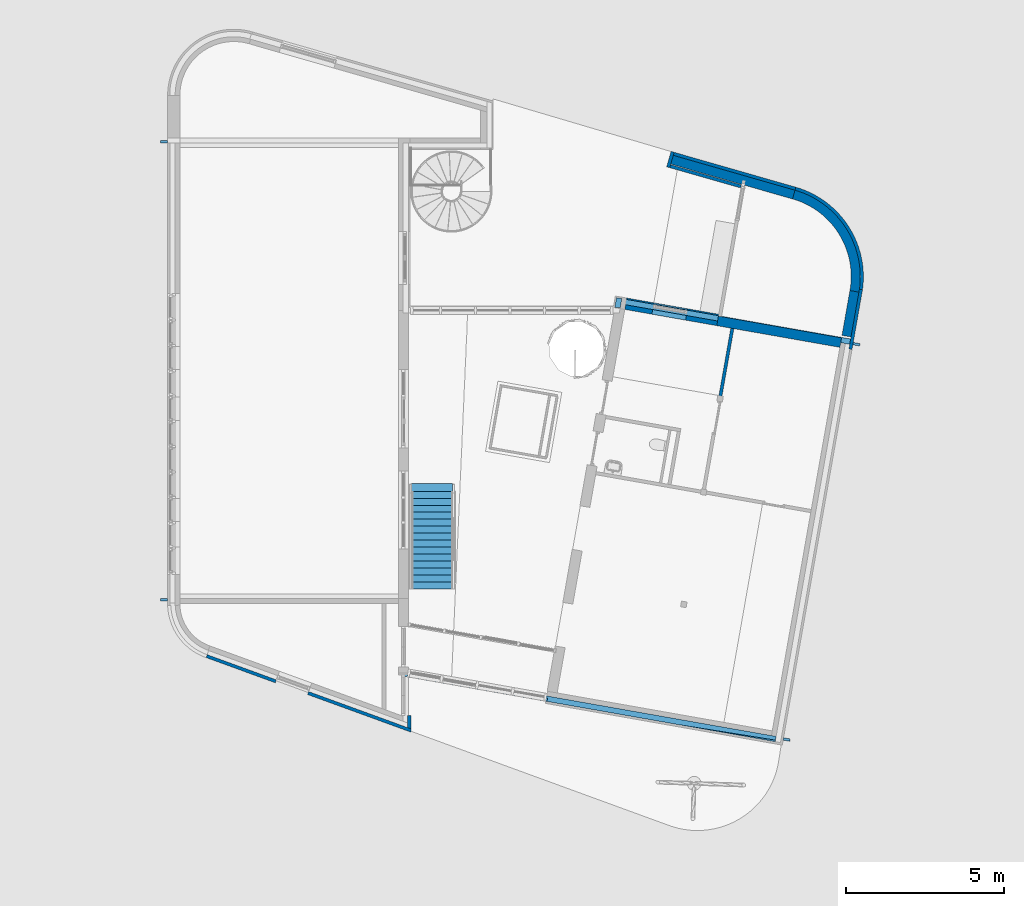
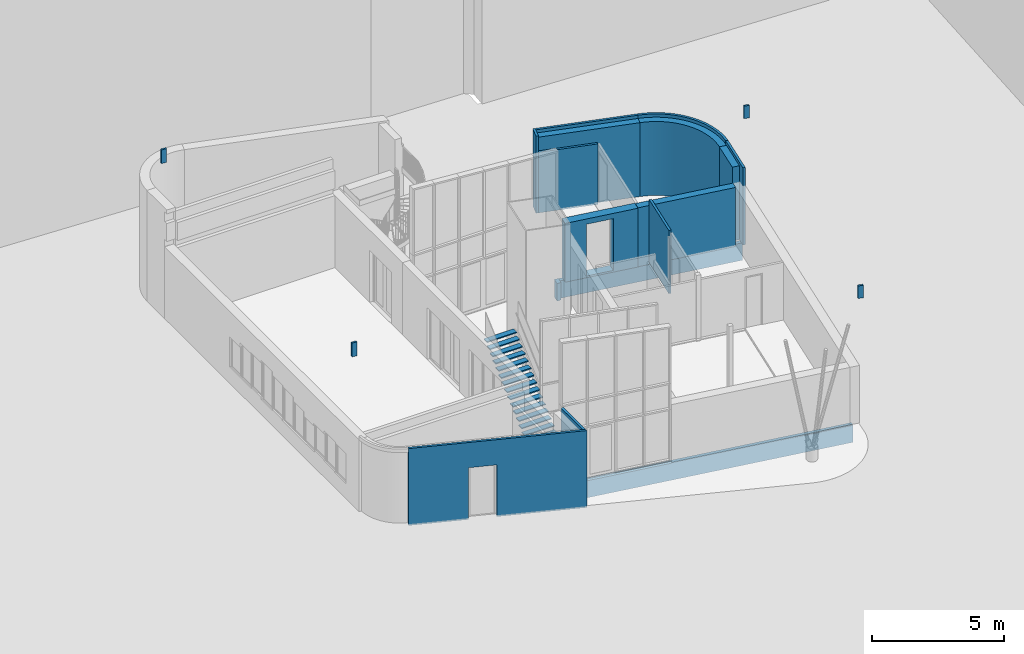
# One storey, part 13 of 21: 20 walls, 1 stair flight, 1 opening, 1 element without a shape of its own.
"""IFC2X3 building model written with IfcOpenShell, lengths in millimetres."""

from ifc_helpers import new_model, entity, si_unit, converted_unit, derived_unit, direction, frame, frame_2d, origin, place, context, subcontext, project, spatial, polyline, circle_curve, parameter, trimmed, segment, composite_curve, rectangle, outline, extrude, clip, halfspace, bounded_halfspace, faceted_brep, material, material_list, layer, layer_set, layer_usage, type_object, element, aggregate, save


model = new_model("IFC2X3")

# Units and contexts
model_context = context("Model", 3, precision=0.01, world=origin(), true_north=direction((6.12303176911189e-17, 1.0)))
body_context = subcontext(model_context, "Body", "Model", "MODEL_VIEW")
ifc_project = project(units=[si_unit("LENGTHUNIT", "METRE", prefix="MILLI"), si_unit("AREAUNIT", "SQUARE_METRE"), si_unit("VOLUMEUNIT", "CUBIC_METRE"), converted_unit("PLANEANGLEUNIT", "DEGREE", entity("IfcRatioMeasure", 0.0174532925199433), si_unit("PLANEANGLEUNIT", "RADIAN"), dimensions=[0, 0, 0, 0, 0, 0, 0]), si_unit("MASSUNIT", "GRAM", prefix="KILO"), derived_unit("MASSDENSITYUNIT", [(si_unit("MASSUNIT", "GRAM", prefix="KILO"), 1), (si_unit("LENGTHUNIT", "METRE"), -3)]), derived_unit("MOMENTOFINERTIAUNIT", [(si_unit("LENGTHUNIT", "METRE"), 4)]), si_unit("TIMEUNIT", "SECOND"), si_unit("FREQUENCYUNIT", "HERTZ"), si_unit("THERMODYNAMICTEMPERATUREUNIT", "DEGREE_CELSIUS"), derived_unit("THERMALTRANSMITTANCEUNIT", [(si_unit("MASSUNIT", "GRAM", prefix="KILO"), 1), (si_unit("THERMODYNAMICTEMPERATUREUNIT", "KELVIN"), -1), (si_unit("TIMEUNIT", "SECOND"), -3)]), derived_unit("VOLUMETRICFLOWRATEUNIT", [(si_unit("LENGTHUNIT", "METRE"), 3), (si_unit("TIMEUNIT", "SECOND"), -1)]), si_unit("ELECTRICCURRENTUNIT", "AMPERE"), si_unit("ELECTRICVOLTAGEUNIT", "VOLT"), si_unit("POWERUNIT", "WATT"), si_unit("FORCEUNIT", "NEWTON", prefix="KILO"), si_unit("ILLUMINANCEUNIT", "LUX"), si_unit("LUMINOUSFLUXUNIT", "LUMEN"), si_unit("LUMINOUSINTENSITYUNIT", "CANDELA"), derived_unit("USERDEFINED", [(si_unit("MASSUNIT", "GRAM", prefix="KILO"), -1), (si_unit("LENGTHUNIT", "METRE"), -2), (si_unit("TIMEUNIT", "SECOND"), 3), (si_unit("LUMINOUSFLUXUNIT", "LUMEN"), 1)]), derived_unit("LINEARVELOCITYUNIT", [(si_unit("LENGTHUNIT", "METRE"), 1), (si_unit("TIMEUNIT", "SECOND"), -1)]), si_unit("PRESSUREUNIT", "PASCAL"), derived_unit("USERDEFINED", [(si_unit("LENGTHUNIT", "METRE"), -2), (si_unit("MASSUNIT", "GRAM", prefix="KILO"), 1), (si_unit("TIMEUNIT", "SECOND"), -2)]), derived_unit("LINEARFORCEUNIT", [(si_unit("MASSUNIT", "GRAM", prefix="KILO"), 1), (si_unit("LENGTHUNIT", "METRE"), 1), (si_unit("TIMEUNIT", "SECOND"), -2), (si_unit("LENGTHUNIT", "METRE"), -1)]), derived_unit("PLANARFORCEUNIT", [(si_unit("MASSUNIT", "GRAM", prefix="KILO"), 1), (si_unit("LENGTHUNIT", "METRE"), 1), (si_unit("TIMEUNIT", "SECOND"), -2), (si_unit("LENGTHUNIT", "METRE"), -2)])], contexts=[model_context])

# Site, building, storey
site_placement = place(None, origin())
site = spatial("IfcSite", under=ifc_project, at=site_placement, Name="<Kadaster Gemeente>;<Kadaster nummer>;<Kadaster sectie>", CompositionType="ELEMENT")
building_placement = place(site_placement, origin())
building = spatial("IfcBuilding", under=site, at=building_placement, Name="JRCZ Middelburg", CompositionType="ELEMENT")
storey_placement = place(building_placement, origin())
storey = spatial("IfcBuildingStorey", under=building, at=storey_placement, Name="00 begane grond", CompositionType="ELEMENT", Elevation=0.0)

# Walls
ifc_material_1 = material(Name="RBM_n7_isolatie_hsb_100")
ifc_layer_1 = layer(ifc_material_1, 100.0)
ifc_layer_set_1 = layer_set([ifc_layer_1], Name="Basic Wall:22_WA_metalstud_binnenwand_100mm")
ifc_layer_usage_1 = layer_usage(ifc_layer_set_1, "AXIS2", "NEGATIVE", 50.0)
wall_type_1 = type_object("IfcWallType", Name="Basic Wall:22_WA_metalstud_binnenwand_100mm", PredefinedType="STANDARD", material=ifc_layer_set_1)
wall_1_placement = place(storey_placement, frame((27624.7105197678, 18683.7274090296, 0.0), z_axis=(0.0, 0.0, 1.0), x_axis=(-0.173648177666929, -0.984807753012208, 0.0)))
element("IfcWallStandardCase", 1, at=wall_1_placement, inside=storey, type_object=wall_type_1, material=ifc_layer_usage_1, Name="Basic Wall:22_WA_metalstud_binnenwand_100mm", ObjectType="Basic Wall:22_WA_metalstud_binnenwand_100mm", context=body_context, shape_type="Clipping", body=[
    clip(extrude(rectangle(XDim=2175.00000000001, YDim=99.9999999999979, at=frame_2d((1237.50000000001, -8.98836560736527e-13), x_axis=(-1.0, 0.0))), origin(), (0.0, 0.0, 1.0), 2936.0), bounded_halfspace(frame((0.0, -50.0, 2936.0), z_axis=(0.0, 0.0, -1.0), x_axis=(1.0, 0.0, 0.0)), True, frame((0.0, -50.0, 2936.0)), polyline([(0.0, 0.0), (2325.0, 0.0), (2325.0, 100.0), (0.0, 100.0), (0.0, 0.0)]))),
])
ifc_material_2 = material(Name="RBM_i4_multiplex_beplating")
ifc_layer_2 = layer(ifc_material_2, 18.0)
ifc_material_3 = material(Name="RBM_n7_isolatie_hsb_270")
ifc_layer_3 = layer(ifc_material_3, 270.0)
ifc_layer_4 = layer(ifc_material_2, 18.0)
ifc_layer_set_2 = layer_set([ifc_layer_2, ifc_layer_3, ifc_layer_4], Name="Basic Wall:22_WA_hsb_binnenwand_306mm")
ifc_layer_usage_2 = layer_usage(ifc_layer_set_2, "AXIS2", "NEGATIVE", 153.0)
wall_type_2 = type_object("IfcWallType", Name="Basic Wall:22_WA_hsb_binnenwand_306mm", PredefinedType="STANDARD", material=ifc_layer_set_2)
wall_2_placement = place(storey_placement, frame((27132.8275877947, 18773.5059211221, -70.0), z_axis=(0.0, 0.0, 1.0), x_axis=(0.984807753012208, -0.173648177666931, 0.0)))
element("IfcWallStandardCase", 2, at=wall_2_placement, inside=storey, type_object=wall_type_2, material=ifc_layer_usage_2, Name="Basic Wall:22_WA_hsb_binnenwand_306mm", ObjectType="Basic Wall:22_WA_hsb_binnenwand_306mm", context=body_context, shape_type="SweptSolid", body=[
    extrude(rectangle(XDim=3950.00000000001, YDim=306.0, at=frame_2d((1975.0, -1.02318153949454e-12), x_axis=(-1.0, 0.0))), origin(), (0.0, 0.0, 1.0), 2735.0),
])
ifc_material_4 = material(Name="geisoleerde cementvezelplaat")
ifc_layer_5 = layer(ifc_material_4, 20.0)
ifc_material_5 = material(Name="RBM_n7_isolatie_resol")
ifc_layer_6 = layer(ifc_material_5, 150.0)
ifc_layer_set_3 = layer_set([ifc_layer_5, ifc_layer_6], Name="Basic Wall:21_RBM_WA_170mm_geïsoleerde_kantplank")
wall_type_3 = type_object("IfcWallType", Name="Basic Wall:21_RBM_WA_170mm_geïsoleerde_kantplank", PredefinedType="STANDARD", material=ifc_layer_set_3)
wall_3_placement = place(storey_placement, frame((28967.2912969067, 5566.30762246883, -890.0), z_axis=(0.0, 0.0, 1.0), x_axis=(-0.984807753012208, 0.173648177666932, 0.0)))
element("IfcWall", 3, at=wall_3_placement, inside=storey, type_object=wall_type_3, Name="Basic Wall:21_RBM_WA_170mm_geïsoleerde_kantplank", ObjectType="Basic Wall:21_RBM_WA_170mm_geïsoleerde_kantplank", context=body_context, shape_type="Brep", body=[
    faceted_brep([(0.0, -85.0, 0.0), (11963.8085260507, -85.0, 0.0), (11963.8085260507, -85.0, 810.0), (0.0, -85.0, 810.0), (11933.8329393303, 85.0, 0.0), (0.0, 85.0, 0.0), (0.0, 85.0, 790.0), (3115.0, 85.0, 790.0), (3115.0, 85.0, 810.0), (7318.00691164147, 85.0, 810.0), (7318.00691164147, 85.0, 790.0), (11787.6115072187, 85.0, 790.0), (11787.6115072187, 85.0, 810.0), (11933.8329393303, 85.0, 810.0), (11933.8329393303, 85.0, 370.0), (11808.1639129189, -31.5584847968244, 810.0), (7317.91397739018, -27.8610349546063, 810.0), (0.0, 35.6087645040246, 810.0), (0.0, 35.6087645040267, 790.0), (11808.1639129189, -31.5584847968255, 790.0), (7317.91397739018, -27.8610349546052, 790.0)], [[[0, 1, 2, 3]], [[4, 5, 6, 7, 8, 9, 10, 11, 12, 13, 14]], [[1, 0, 5, 4]], [[3, 2, 13, 12, 15, 16, 9, 8, 17]], [[0, 3, 17, 18, 6, 5]], [[18, 7, 6]], [[11, 19, 15, 12]], [[19, 20, 16, 15]], [[20, 10, 9, 16]], [[7, 18, 17, 8]], [[2, 1, 4, 14, 13]], [[20, 19, 11, 10]]]),
])
ifc_layer_usage_3 = layer_usage(ifc_layer_set_3, "AXIS2", "NEGATIVE", 85.0)
wall_4_placement = place(storey_placement, frame((23970.8745783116, 19182.8632927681, -890.0), z_axis=(0.0, 0.0, 1.0), x_axis=(0.17364817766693, 0.984807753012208, 0.0)))
element("IfcWallStandardCase", 4, at=wall_4_placement, inside=storey, type_object=wall_type_3, material=ifc_layer_usage_3, Name="Basic Wall:21_RBM_WA_170mm_geïsoleerde_kantplank", ObjectType="Basic Wall:21_RBM_WA_170mm_geïsoleerde_kantplank", context=body_context, shape_type="SweptSolid", body=[
    extrude(outline(polyline([(312.929064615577, -85.0), (312.929064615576, 85.0), (0.0, 85.0), (29.9755867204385, -85.0), (142.929064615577, -85.0), (312.929064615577, -85.0)])), origin(), (0.0, 0.0, 1.0), 810.000000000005),
])
ifc_layer_usage_4 = layer_usage(ifc_layer_set_3, "AXIS2", "NEGATIVE", 85.0)
wall_5_placement = place(storey_placement, frame((24094.1627040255, 19392.5695076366, -890.0), z_axis=(0.0, 0.0, 1.0), x_axis=(0.984807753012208, -0.173648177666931, 0.0)))
element("IfcWallStandardCase", 5, at=wall_5_placement, inside=storey, type_object=wall_type_3, material=ifc_layer_usage_4, Name="Basic Wall:21_RBM_WA_170mm_geïsoleerde_kantplank", ObjectType="Basic Wall:21_RBM_WA_170mm_geïsoleerde_kantplank", context=body_context, shape_type="SweptSolid", body=[
    extrude(rectangle(XDim=7370.0, YDim=170.000000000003, at=frame_2d((3685.0, -6.60804744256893e-13), x_axis=(-1.0, 0.0))), origin(), (0.0, 0.0, 1.0), 810.000000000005),
])

# Wall, opening
ifc_material_6 = material(Name="gevel antraciet")
ifc_layer_7 = layer(ifc_material_6, 8.0)
ifc_material_7 = material(Name="ISR_Luchtspouw")
ifc_layer_8 = layer(ifc_material_7, 35.0)
ifc_layer_9 = layer(ifc_material_7, 35.0)
ifc_layer_10 = layer(ifc_material_3, 270.0)
ifc_layer_11 = layer(ifc_material_2, 18.0)
ifc_layer_set_4 = layer_set([ifc_layer_7, ifc_layer_8, ifc_layer_9, ifc_layer_10, ifc_layer_11], Name="Basic Wall:21_RBM_WA_hsb_270mm_ rockpanel")
ifc_layer_usage_5 = layer_usage(ifc_layer_set_4, "AXIS2", "NEGATIVE", 183.0)
wall_type_4 = type_object("IfcWallType", Name="Basic Wall:21_RBM_WA_hsb_270mm_ rockpanel", PredefinedType="STANDARD", material=ifc_layer_set_4)
wall_6_placement = place(storey_placement, frame((24232.8541617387, 19315.31227783, -80.0), z_axis=(0.0, 0.0, 1.0), x_axis=(0.984807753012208, -0.173648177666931, 0.0)))
wall_6 = element("IfcWallStandardCase", 6, at=wall_6_placement, inside=storey, type_object=wall_type_4, material=ifc_layer_usage_5, Name="Basic Wall:21_RBM_WA_hsb_270mm_ rockpanel", ObjectType="Basic Wall:21_RBM_WA_hsb_270mm_ rockpanel", context=body_context, shape_type="SweptSolid", body=[
    extrude(rectangle(XDim=3049.42058882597, YDim=366.000000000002, at=frame_2d((1524.71029441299, 1.70530256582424e-13), x_axis=(-1.0, 0.0))), origin(), (0.0, 0.0, 1.0), 2725.0),
])
opening_placement = place(wall_6_placement, origin())
element("IfcOpeningElement", 7, at=opening_placement, cuts=wall_6, Name="Basic Wall:21_RBM_WA_hsb_270mm_ rockpanel", ObjectType="Opening", context=body_context, shape_type="SweptSolid", body=[
    extrude(rectangle(XDim=2400.0, YDim=1084.0, at=frame_2d((2.1600499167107e-12, 0.0), x_axis=(0.0, 1.0))), frame((1410.31493614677, -335.399999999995, 1280.0), z_axis=(0.0, 1.0, 0.0), x_axis=(-1.0, 0.0, 0.0)), (0.0, 0.0, 1.0), 670.799999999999),
])

# Walls
ifc_layer_12 = layer(ifc_material_7, 270.0)
ifc_layer_13 = layer(ifc_material_2, 18.0)
ifc_layer_set_5 = layer_set([ifc_layer_12, ifc_layer_13], Name="Basic Wall:21_RBM_WA_hsb_270mm - niet geïsoleerd")
ifc_layer_usage_6 = layer_usage(ifc_layer_set_5, "AXIS2", "POSITIVE", -144.0)
wall_type_5 = type_object("IfcWallType", Name="Basic Wall:21_RBM_WA_hsb_270mm - niet geïsoleerd", PredefinedType="STANDARD", material=ifc_layer_set_5)
wall_7_placement = place(storey_placement, frame((29538.0953940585, 22762.1711773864, -80.0), z_axis=(0.0, 0.0, 1.0), x_axis=(-0.961261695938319, 0.275637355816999, 0.0)))
element("IfcWallStandardCase", 8, at=wall_7_placement, inside=storey, type_object=wall_type_5, material=ifc_layer_usage_6, Name="Basic Wall:21_RBM_WA_hsb_270mm - niet geïsoleerd", ObjectType="Basic Wall:21_RBM_WA_hsb_270mm - niet geïsoleerd", context=body_context, shape_type="SweptSolid", body=[
    extrude(outline(polyline([(3998.45557788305, -144.0), (3998.45557788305, 144.0), (0.0, 144.0), (0.485277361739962, -144.0), (3998.45557788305, -144.0)])), origin(), (0.0, 0.0, 1.0), 3429.99999999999),
])
ifc_layer_usage_7 = layer_usage(ifc_layer_set_5, "AXIS2", "POSITIVE", -144.0)
wall_8_placement = place(storey_placement, frame((31204.4331900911, 18291.0436780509, -80.0), z_axis=(0.0, 0.0, 1.0), x_axis=(0.173659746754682, 0.984805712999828, 0.0)))
element("IfcWallStandardCase", 9, at=wall_8_placement, inside=storey, type_object=wall_type_5, material=ifc_layer_usage_7, Name="Basic Wall:21_RBM_WA_hsb_270mm - niet geïsoleerd", ObjectType="Basic Wall:21_RBM_WA_hsb_270mm - niet geïsoleerd", context=body_context, shape_type="SweptSolid", body=[
    extrude(rectangle(XDim=1437.80359953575, YDim=287.999999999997, at=frame_2d((718.901799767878, -2.58637555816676e-12), x_axis=(-1.0, 0.0))), origin(), (0.0, 0.0, 1.0), 3429.99999999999),
])
ifc_layer_usage_8 = layer_usage(ifc_layer_set_5, "AXIS2", "POSITIVE", -144.0)
wall_9_placement = place(storey_placement, frame((29537.6158396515, 22762.3077892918, -80.0)))
element("IfcWallStandardCase", 10, at=wall_9_placement, inside=storey, type_object=wall_type_5, material=ifc_layer_usage_8, Name="Basic Wall:21_RBM_WA_hsb_270mm - niet geïsoleerd", ObjectType="Basic Wall:21_RBM_WA_hsb_270mm - niet geïsoleerd", context=body_context, shape_type="SweptSolid", body=[
    extrude(outline(composite_curve([segment(trimmed(circle_curve(frame_2d((-732.462092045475, -2588.19028720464), x_axis=(1.0, 0.0)), 2833.8382254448), [parameter(349.999326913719)], [parameter(74.1880483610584)], True, "PARAMETER"), True, "CONTINUOUS"), segment(polyline([(39.7048551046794, 138.418832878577), (-39.2122248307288, -138.558296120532)]), True, "CONTINUOUS"), segment(trimmed(circle_curve(frame_2d((-732.462092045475, -2588.19028720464), x_axis=(1.0, 0.0)), 2545.8382254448), [parameter(349.99932691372)], [parameter(74.1984000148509)], True, "PARAMETER"), False, "CONTINUOUS"), segment(polyline([(1774.69393674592, -3030.29990871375), (2058.31798208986, -3080.31391577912)]), True, "CONTINUOUS")], self_intersect=False)), origin(), (0.0, 0.0, 1.0), 3429.99999999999),
])
ifc_material_8 = material(Name="Gevelafwerking")
ifc_layer_14 = layer(ifc_material_8, 30.0)
ifc_layer_15 = layer(ifc_material_7, 35.0)
ifc_layer_16 = layer(ifc_material_7, 35.0)
ifc_layer_set_6 = layer_set([ifc_layer_14, ifc_layer_15, ifc_layer_16], Name="Basic Wall:20_RBM_WA_HSB_wand-100mm_gevelafwerking")
ifc_layer_usage_9 = layer_usage(ifc_layer_set_6, "AXIS2", "NEGATIVE", 50.0)
wall_type_6 = type_object("IfcWallType", Name="Basic Wall:20_RBM_WA_HSB_wand-100mm_gevelafwerking", PredefinedType="STANDARD", material=ifc_layer_set_6)
wall_10_placement = place(storey_placement, frame((31661.8142293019, 19765.0576906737, -80.0), z_axis=(0.0, 0.0, 1.0), x_axis=(-0.17364817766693, -0.984807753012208, 0.0)))
element("IfcWallStandardCase", 11, at=wall_10_placement, inside=storey, type_object=wall_type_6, material=ifc_layer_usage_9, Name="Basic Wall:20_RBM_WA_HSB_wand-100mm_gevelafwerking", ObjectType="Basic Wall:20_RBM_WA_HSB_wand-100mm_gevelafwerking", context=body_context, shape_type="SweptSolid", body=[
    extrude(outline(polyline([(1915.938147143, -50.0), (1915.938147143, 50.0), (0.0, 50.0), (1.80715518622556, -50.0), (1915.938147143, -50.0)])), origin(), (0.0, 0.0, 1.0), 3580.0),
])
ifc_layer_usage_10 = layer_usage(ifc_layer_set_6, "AXIS2", "NEGATIVE", 50.0)
wall_11_placement = place(storey_placement, frame((25574.2421601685, 23626.187939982, -80.0), z_axis=(0.0, 0.0, 1.0), x_axis=(0.275637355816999, 0.961261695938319, 0.0)))
element("IfcWallStandardCase", 12, at=wall_11_placement, inside=storey, type_object=wall_type_6, material=ifc_layer_usage_10, Name="Basic Wall:20_RBM_WA_HSB_wand-100mm_gevelafwerking", ObjectType="Basic Wall:20_RBM_WA_HSB_wand-100mm_gevelafwerking", context=body_context, shape_type="SweptSolid", body=[
    extrude(outline(polyline([(506.039805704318, -50.0), (506.039805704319, 50.0), (0.0, 50.0), (0.0397977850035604, -50.0), (100.03980570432, -50.0), (406.039805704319, -50.0), (506.039805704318, -50.0)])), origin(), (0.0, 0.0, 1.0), 3580.0),
])
ifc_layer_usage_11 = layer_usage(ifc_layer_set_6, "AXIS2", "POSITIVE", -50.0)
wall_12_placement = place(storey_placement, frame((29591.0858035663, 22948.7944272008, -80.0)))
element("IfcWallStandardCase", 13, at=wall_12_placement, inside=storey, type_object=wall_type_6, material=ifc_layer_usage_11, Name="Basic Wall:20_RBM_WA_HSB_wand-100mm_gevelafwerking", ObjectType="Basic Wall:20_RBM_WA_HSB_wand-100mm_gevelafwerking", context=body_context, shape_type="SweptSolid", body=[
    extrude(outline(composite_curve([segment(trimmed(circle_curve(frame_2d((-799.011158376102, -2784.9314124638), x_axis=(1.0, 0.0)), 2947.28524714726), [parameter(352.052904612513)], [parameter(73.9915421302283)], True, "PARAMETER"), True, "CONTINUOUS"), segment(polyline([(13.78896260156, 48.0610498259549), (-13.788962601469, -48.0610498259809)]), True, "CONTINUOUS"), segment(trimmed(circle_curve(frame_2d((-799.011158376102, -2784.9314124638), x_axis=(1.0, 0.0)), 2847.28524714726), [parameter(352.088647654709)], [parameter(73.9915421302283)], True, "PARAMETER"), False, "CONTINUOUS"), segment(polyline([(2021.17422888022, -3176.83402808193), (2119.96881338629, -3192.41914541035)]), True, "CONTINUOUS")], self_intersect=False)), origin(), (0.0, 0.0, 1.0), 3580.0),
])
ifc_layer_usage_12 = layer_usage(ifc_layer_set_6, "AXIS2", "NEGATIVE", 50.0)
wall_13_placement = place(storey_placement, frame((25748.0068511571, 24050.7796692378, -80.0), z_axis=(0.0, 0.0, 1.0), x_axis=(0.961261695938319, -0.275637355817, 0.0)))
element("IfcWallStandardCase", 14, at=wall_13_placement, inside=storey, type_object=wall_type_6, material=ifc_layer_usage_12, Name="Basic Wall:20_RBM_WA_HSB_wand-100mm_gevelafwerking", ObjectType="Basic Wall:20_RBM_WA_HSB_wand-100mm_gevelafwerking", context=body_context, shape_type="SweptSolid", body=[
    extrude(rectangle(XDim=3997.95288968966, YDim=100.000000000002, at=frame_2d((1998.97644484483, 1.50635059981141e-12), x_axis=(-1.0, 0.0))), origin(), (0.0, 0.0, 1.0), 3580.0),
])
ifc_layer_usage_13 = layer_usage(ifc_layer_set_6, "AXIS2", "NEGATIVE", 50.0)
wall_14_placement = place(storey_placement, frame((27868.8347767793, 23021.2420041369, -80.0), z_axis=(0.0, 0.0, 1.0), x_axis=(-0.961371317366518, 0.275254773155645, 0.0)))
element("IfcWallStandardCase", 15, at=wall_14_placement, inside=storey, type_object=wall_type_6, material=ifc_layer_usage_13, Name="Basic Wall:20_RBM_WA_HSB_wand-100mm_gevelafwerking", ObjectType="Basic Wall:20_RBM_WA_HSB_wand-100mm_gevelafwerking", context=body_context, shape_type="SweptSolid", body=[
    extrude(outline(polyline([(2322.42997332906, -50.0), (2322.46977111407, 50.0), (0.0, 50.0), (0.0, -50.0), (2322.42997332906, -50.0)])), origin(), (0.0, 0.0, 1.0), 2809.0),
])
wall_15_placement = place(storey_placement, frame((17461.1010071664, 5831.2652998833, -70.0), z_axis=(0.0, 0.0, 1.0), x_axis=(-0.939692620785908, 0.342020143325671, 0.0)))
element("IfcWall", 16, at=wall_15_placement, inside=storey, type_object=wall_type_6, Name="Basic Wall:20_RBM_WA_HSB_wand-100mm_gevelafwerking", ObjectType="Basic Wall:20_RBM_WA_HSB_wand-100mm_gevelafwerking", context=body_context, shape_type="Brep", body=[
    faceted_brep([(36.3970234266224, -50.0, 0.0), (142.814800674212, -50.0, 0.0), (3471.99318715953, -50.0, 0.0), (3471.99318715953, -50.0, 2400.0), (4555.99318715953, -50.0, 2400.0), (4555.99318715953, -50.0, 0.0), (6879.73013932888, -50.0, 0.0), (6879.73013932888, -50.0, 3570.0), (142.814800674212, -50.0, 3570.0), (36.3970234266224, -50.0, 3570.0), (0.0, 50.0, 0.0), (0.0, 50.0, 3570.0), (6878.93353620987, 50.0, 3570.0), (6878.93353620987, 50.0, 0.0), (4555.99318715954, 50.0, 0.0), (4555.99318715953, 50.0, 2400.0), (3471.99318715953, 50.0, 2400.0), (3471.99318715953, 50.0, 0.0)], [[[0, 1, 2, 3, 4, 5, 6, 7, 8, 9]], [[10, 11, 12, 13, 14, 15, 16, 17]], [[2, 1, 0, 10, 17]], [[9, 8, 7, 12, 11]], [[3, 2, 17, 16]], [[4, 3, 16, 15]], [[5, 4, 15, 14]], [[6, 5, 14, 13]], [[7, 6, 13, 12]], [[0, 9, 11, 10]]]),
])
wall_16_placement = place(storey_placement, frame((17394.0, 7572.46662890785, -70.0), z_axis=(0.0, 0.0, 1.0), x_axis=(0.0, -1.0, 0.0)))
element("IfcWall", 17, at=wall_16_placement, inside=storey, type_object=wall_type_6, Name="Basic Wall:20_RBM_WA_HSB_wand-100mm_gevelafwerking", ObjectType="Basic Wall:20_RBM_WA_HSB_wand-100mm_gevelafwerking", context=body_context, shape_type="Brep", body=[
    faceted_brep([(1645.37115938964, -50.0, 0.0), (1645.37115938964, -50.0, 3570.0), (0.0, -50.0, 3570.0), (0.0, -50.0, 2470.0), (1260.50446545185, -50.0, 2470.0), (1260.50446545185, -50.0, 0.0), (1681.76818281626, 50.0, 0.0), (1260.50446545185, 50.0, 0.0), (1260.50446545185, 50.0, 2470.0), (0.0, 50.0, 2470.0), (0.0, 50.0, 3570.0), (1681.76818281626, 50.0, 3570.0)], [[[0, 1, 2, 3, 4, 5]], [[6, 7, 8, 9, 10, 11]], [[1, 0, 6, 11]], [[0, 5, 7, 6]], [[2, 1, 11, 10]], [[3, 2, 10, 9]], [[4, 3, 9, 8]], [[5, 4, 8, 7]]]),
])
ifc_layer_17 = layer(ifc_material_6, 8.0)
ifc_material_9 = material(Name="RBM_i2_hout_vuren_gen")
ifc_layer_18 = layer(ifc_material_9, 35.0)
ifc_layer_19 = layer(ifc_material_9, 35.0)
ifc_layer_set_7 = layer_set([ifc_layer_17, ifc_layer_18, ifc_layer_19], Name="Basic Wall:21_RBM_WA_dakrand_beplating_rockpanel")
ifc_layer_usage_14 = layer_usage(ifc_layer_set_7, "AXIS2", "NEGATIVE", 39.0)
wall_type_7 = type_object("IfcWallType", Name="Basic Wall:21_RBM_WA_dakrand_beplating_rockpanel", PredefinedType="STANDARD", material=ifc_layer_set_7)
wall_17_placement = place(storey_placement, frame((29421.2261995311, 5532.97627579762, 5645.1392716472), z_axis=(0.0, 0.0, 1.0), x_axis=(-0.984807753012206, 0.173648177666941, 0.0)))
element("IfcWallStandardCase", 18, at=wall_17_placement, inside=storey, type_object=wall_type_7, material=ifc_layer_usage_14, Name="Basic Wall:21_RBM_WA_dakrand_beplating_rockpanel", ObjectType="Basic Wall:21_RBM_WA_dakrand_beplating_rockpanel", context=body_context, shape_type="Clipping", body=[
    clip(clip(extrude(rectangle(XDim=214.826539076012, YDim=78.0000000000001, at=frame_2d((107.413269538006, 3.76587649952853e-13), x_axis=(-1.0, 0.0))), origin(), (0.0, 0.0, 1.0), 597.741033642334), halfspace(frame((0.0, -39.0, 581.628976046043), z_axis=(-0.074790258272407, 0.0, 0.9971992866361), x_axis=(0.0, 1.0, 0.0)), False)), halfspace(frame((214.826539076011, -39.0, 16.1119904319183), z_axis=(0.0747899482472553, 0.0, -0.997199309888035), x_axis=(0.0, 1.0, 0.0)), False)),
])
ifc_layer_usage_15 = layer_usage(ifc_layer_set_7, "AXIS2", "POSITIVE", -39.0)
wall_18_placement = place(storey_placement, frame((31625.5328001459, 18017.8761338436, 5644.92641252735), z_axis=(0.0, 0.0, 1.0), x_axis=(-0.984807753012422, 0.17364817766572, 0.0)))
element("IfcWallStandardCase", 19, at=wall_18_placement, inside=storey, type_object=wall_type_7, material=ifc_layer_usage_15, Name="Basic Wall:21_RBM_WA_dakrand_beplating_rockpanel", ObjectType="Basic Wall:21_RBM_WA_dakrand_beplating_rockpanel", context=body_context, shape_type="Clipping", body=[
    clip(clip(extrude(rectangle(XDim=217.664660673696, YDim=77.9999999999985, at=frame_2d((108.832330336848, -3.41060513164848e-13), x_axis=(-1.0, 0.0))), origin(), (0.0, 0.0, 1.0), 597.953892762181), halfspace(frame((217.664660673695, -39.0, 16.3248495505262), z_axis=(0.0747899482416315, 0.0, -0.997199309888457), x_axis=(0.0, 1.0, 0.0)), False)), halfspace(frame((0.0, -39.0, 581.628975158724), z_axis=(-0.0747902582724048, 0.0, 0.9971992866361), x_axis=(0.0, 1.0, 0.0)), False)),
])
ifc_layer_usage_16 = layer_usage(ifc_layer_set_7, "AXIS2", "NEGATIVE", 39.0)
wall_19_placement = place(storey_placement, frame((9540.0, 24439.0, 7342.89797168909)))
element("IfcWallStandardCase", 20, at=wall_19_placement, inside=storey, type_object=wall_type_7, material=ifc_layer_usage_16, Name="Basic Wall:21_RBM_WA_dakrand_beplating_rockpanel", ObjectType="Basic Wall:21_RBM_WA_dakrand_beplating_rockpanel", context=body_context, shape_type="Clipping", body=[
    clip(clip(extrude(rectangle(XDim=222.000000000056, YDim=77.9999999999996, at=frame_2d((111.000000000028, 0.0), x_axis=(-1.0, 0.0))), origin(), (0.0, 0.0, 1.0), 653.87848654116), halfspace(frame((0.0, -39.0, 653.878486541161), z_axis=(0.0729008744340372, 0.0, 0.997339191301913), x_axis=(0.0, 1.0, 0.0)), False)), halfspace(frame((222.0, -39.0, 0.0), z_axis=(-0.0736599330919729, 0.0, -0.997283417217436), x_axis=(0.0, 1.0, 0.0)), False)),
])
ifc_layer_usage_17 = layer_usage(ifc_layer_set_7, "AXIS2", "NEGATIVE", 39.0)
wall_20_placement = place(storey_placement, frame((9762.0, 9961.0, 7155.35793980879), z_axis=(0.0, 0.0, 1.0), x_axis=(-1.0, 0.0, 0.0)))
element("IfcWallStandardCase", 21, at=wall_20_placement, inside=storey, type_object=wall_type_7, material=ifc_layer_usage_17, Name="Basic Wall:21_RBM_WA_dakrand_beplating_rockpanel", ObjectType="Basic Wall:21_RBM_WA_dakrand_beplating_rockpanel", context=body_context, shape_type="Clipping", body=[
    clip(clip(extrude(rectangle(XDim=222.000000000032, YDim=77.9999999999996, at=frame_2d((111.000000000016, 0.0), x_axis=(-1.0, 0.0))), origin(), (0.0, 0.0, 1.0), 662.459118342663), halfspace(frame((222.0, -39.0, 16.3970490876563), z_axis=(0.0736599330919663, 0.0, -0.997283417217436), x_axis=(0.0, 1.0, 0.0)), False)), halfspace(frame((0.0, -39.0, 646.062069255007), z_axis=(-0.0736599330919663, 0.0, 0.997283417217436), x_axis=(0.0, 1.0, 0.0)), False)),
])

# Stair, stair flight
stair_placement = place(storey_placement, origin())
stair = element("IfcStair", 22, at=stair_placement, inside=storey, Name="Assembled Stair:Stair", ObjectType="Assembled Stair:RBM_ST_houten trap", ShapeType="STRAIGHT_RUN_STAIR")
ifc_material_10 = material(Name="traphout")
ifc_material_list = material_list([ifc_material_10, ifc_material_10, ifc_material_10, ifc_material_10, ifc_material_10, ifc_material_10, ifc_material_10, ifc_material_10, ifc_material_10, ifc_material_10, ifc_material_10, ifc_material_10, ifc_material_10, ifc_material_10, ifc_material_10])
stair_flight_type = type_object("IfcStairFlightType", Name="Non-Monolithic Run:RBM_ST_samengestelde houten trede", PredefinedType="STRAIGHT")
stair_flight_placement = place(stair_placement, origin())
stair_flight = element("IfcStairFlight", 23, at=stair_flight_placement, type_object=stair_flight_type, material=ifc_material_list, Name="Assembled Stair:Stair:1742392 Run 1", ObjectType="Non-Monolithic Run:RBM_ST_samengestelde houten trede", NumberOfRiser=16, NumberOfTreads=15, RiserHeight=0.656167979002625, TreadLength=0.721784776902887, context=body_context, shape_type="SweptSolid", body=[
    extrude(rectangle(XDim=245.000000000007, YDim=1300.0, at=frame_2d((-3.24718030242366e-12, 0.0), x_axis=(1.0, 0.0))), frame((18118.0, 10433.1069519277, 150.0), z_axis=(0.0, 0.0, 1.0), x_axis=(0.0, -1.0, 0.0)), (0.0, 0.0, 1.0), 50.0),
    extrude(rectangle(XDim=244.999999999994, YDim=1300.0, at=frame_2d((3.24718030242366e-12, 1.08002495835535e-12), x_axis=(1.0, 0.0))), frame((18118.0, 10653.1069519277, 350.0), z_axis=(0.0, 0.0, 1.0), x_axis=(0.0, -1.0, 0.0)), (0.0, 0.0, 1.0), 50.0),
    extrude(rectangle(XDim=244.999999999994, YDim=1300.0, at=frame_2d((1.08713038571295e-12, 1.08002495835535e-12), x_axis=(1.0, 0.0))), frame((18118.0, 10873.1069519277, 550.0), z_axis=(0.0, 0.0, 1.0), x_axis=(0.0, -1.0, 0.0)), (0.0, 0.0, 1.0), 50.0),
    extrude(rectangle(XDim=244.999999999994, YDim=1300.0, at=frame_2d((3.24718030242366e-12, 1.08002495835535e-12), x_axis=(1.0, 0.0))), frame((18118.0, 11093.1069519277, 750.0), z_axis=(0.0, 0.0, 1.0), x_axis=(0.0, -1.0, 0.0)), (0.0, 0.0, 1.0), 50.0),
    extrude(rectangle(XDim=244.999999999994, YDim=1300.0, at=frame_2d((3.24718030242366e-12, 1.08002495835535e-12), x_axis=(1.0, 0.0))), frame((18118.0, 11313.1069519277, 950.0), z_axis=(0.0, 0.0, 1.0), x_axis=(0.0, -1.0, 0.0)), (0.0, 0.0, 1.0), 50.0),
    extrude(rectangle(XDim=244.999999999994, YDim=1300.0, at=frame_2d((3.24718030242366e-12, 1.08002495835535e-12), x_axis=(1.0, 0.0))), frame((18118.0, 11533.1069519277, 1150.0), z_axis=(0.0, 0.0, 1.0), x_axis=(0.0, -1.0, 0.0)), (0.0, 0.0, 1.0), 50.0),
    extrude(rectangle(XDim=244.999999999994, YDim=1300.0, at=frame_2d((1.08713038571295e-12, 1.08002495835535e-12), x_axis=(1.0, 0.0))), frame((18118.0, 11753.1069519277, 1350.0), z_axis=(0.0, 0.0, 1.0), x_axis=(0.0, -1.0, 0.0)), (0.0, 0.0, 1.0), 50.0),
    extrude(rectangle(XDim=244.999999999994, YDim=1300.0, at=frame_2d((1.08713038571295e-12, -1.08002495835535e-12), x_axis=(1.0, 0.0))), frame((18118.0, 11973.1069519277, 1550.0), z_axis=(0.0, 0.0, 1.0), x_axis=(0.0, -1.0, 0.0)), (0.0, 0.0, 1.0), 50.0),
    extrude(rectangle(XDim=244.999999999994, YDim=1300.0, at=frame_2d((3.24718030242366e-12, -1.08002495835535e-12), x_axis=(1.0, 0.0))), frame((18118.0, 12193.1069519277, 1750.0), z_axis=(0.0, 0.0, 1.0), x_axis=(0.0, -1.0, 0.0)), (0.0, 0.0, 1.0), 50.0),
    extrude(rectangle(XDim=244.999999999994, YDim=1300.0, at=frame_2d((3.24718030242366e-12, -1.08002495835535e-12), x_axis=(1.0, 0.0))), frame((18118.0, 12413.1069519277, 1950.0), z_axis=(0.0, 0.0, 1.0), x_axis=(0.0, -1.0, 0.0)), (0.0, 0.0, 1.0), 50.0),
    extrude(rectangle(XDim=244.999999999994, YDim=1300.0, at=frame_2d((3.24718030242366e-12, -1.08002495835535e-12), x_axis=(1.0, 0.0))), frame((18118.0, 12633.1069519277, 2150.0), z_axis=(0.0, 0.0, 1.0), x_axis=(0.0, -1.0, 0.0)), (0.0, 0.0, 1.0), 50.0),
    extrude(rectangle(XDim=244.999999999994, YDim=1300.0, at=frame_2d((1.08713038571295e-12, -1.08002495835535e-12), x_axis=(1.0, 0.0))), frame((18118.0, 12853.1069519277, 2350.0), z_axis=(0.0, 0.0, 1.0), x_axis=(0.0, -1.0, 0.0)), (0.0, 0.0, 1.0), 50.0),
    extrude(rectangle(XDim=244.999999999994, YDim=1300.0, at=frame_2d((3.24718030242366e-12, 1.08002495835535e-12), x_axis=(1.0, 0.0))), frame((18118.0, 13073.1069519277, 2550.0), z_axis=(0.0, 0.0, 1.0), x_axis=(0.0, -1.0, 0.0)), (0.0, 0.0, 1.0), 50.0),
    extrude(rectangle(XDim=244.999999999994, YDim=1300.0, at=frame_2d((3.24718030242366e-12, 1.08002495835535e-12), x_axis=(1.0, 0.0))), frame((18118.0, 13293.1069519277, 2750.0), z_axis=(0.0, 0.0, 1.0), x_axis=(0.0, -1.0, 0.0)), (0.0, 0.0, 1.0), 50.0),
    extrude(rectangle(XDim=244.999999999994, YDim=1300.0, at=frame_2d((3.24718030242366e-12, 1.08002495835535e-12), x_axis=(1.0, 0.0))), frame((18118.0, 13513.1069519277, 2950.0), z_axis=(0.0, 0.0, 1.0), x_axis=(0.0, -1.0, 0.0)), (0.0, 0.0, 1.0), 50.0),
])
aggregate(stair, [stair_flight])

save(model, "model.ifc")
